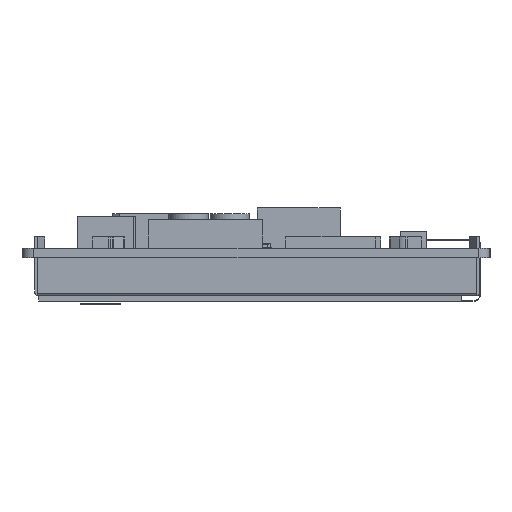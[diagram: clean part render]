
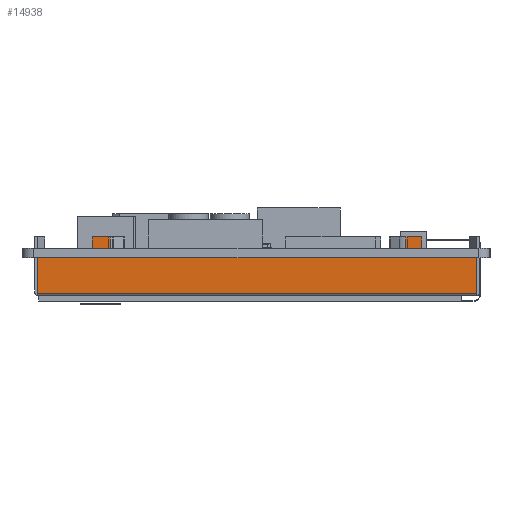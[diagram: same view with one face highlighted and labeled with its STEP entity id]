
A CAD part, left-side view. The second image highlights one B-rep face of the part: STEP entity #14938.
In plain terms, the highlighted planar face has unit normal (-1, 0, 0).
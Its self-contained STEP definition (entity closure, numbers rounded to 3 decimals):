
#6018=LINE('',#52164,#10097);
#6020=LINE('',#52169,#10099);
#6024=LINE('',#52178,#10103);
#6027=LINE('',#52184,#10106);
#6028=LINE('',#52186,#10107);
#6029=LINE('',#52188,#10108);
#6030=LINE('',#52189,#10109);
#6031=LINE('',#52191,#10110);
#6032=LINE('',#52193,#10111);
#6033=LINE('',#52195,#10112);
#6034=LINE('',#52197,#10113);
#6035=LINE('',#52198,#10114);
#6036=LINE('',#52200,#10115);
#6037=LINE('',#52202,#10116);
#6038=LINE('',#52204,#10117);
#6039=LINE('',#52206,#10118);
#10097=VECTOR('',#42795,1.);
#10099=VECTOR('',#42799,1.);
#10103=VECTOR('',#42805,1.);
#10106=VECTOR('',#42810,1.);
#10107=VECTOR('',#42811,1.);
#10108=VECTOR('',#42812,1.);
#10109=VECTOR('',#42813,1.);
#10110=VECTOR('',#42814,1.);
#10111=VECTOR('',#42815,1.);
#10112=VECTOR('',#42816,1.);
#10113=VECTOR('',#42817,1.);
#10114=VECTOR('',#42818,1.);
#10115=VECTOR('',#42819,1.);
#10116=VECTOR('',#42820,1.);
#10117=VECTOR('',#42821,1.);
#10118=VECTOR('',#42822,1.);
#11820=PLANE('',#35631);
#13357=FACE_OUTER_BOUND('',#16868,.T.);
#14938=ADVANCED_FACE('',(#13357),#11820,.F.);
#16868=EDGE_LOOP('',(#24917,#24918,#24919,#24920,#24921,#24922,#24923,#24924,
#24925,#24926,#24927,#24928,#24929,#24930,#24931,#24932));
#24917=ORIENTED_EDGE('',*,*,#33012,.F.);
#24918=ORIENTED_EDGE('',*,*,#33013,.T.);
#24919=ORIENTED_EDGE('',*,*,#33014,.T.);
#24920=ORIENTED_EDGE('',*,*,#33009,.T.);
#24921=ORIENTED_EDGE('',*,*,#33015,.T.);
#24922=ORIENTED_EDGE('',*,*,#33016,.F.);
#24923=ORIENTED_EDGE('',*,*,#33017,.T.);
#24924=ORIENTED_EDGE('',*,*,#33018,.F.);
#24925=ORIENTED_EDGE('',*,*,#33019,.F.);
#24926=ORIENTED_EDGE('',*,*,#33005,.T.);
#24927=ORIENTED_EDGE('',*,*,#33020,.T.);
#24928=ORIENTED_EDGE('',*,*,#33021,.T.);
#24929=ORIENTED_EDGE('',*,*,#33022,.F.);
#24930=ORIENTED_EDGE('',*,*,#33023,.F.);
#24931=ORIENTED_EDGE('',*,*,#33024,.F.);
#24932=ORIENTED_EDGE('',*,*,#33003,.T.);
#28696=VERTEX_POINT('',#52159);
#28698=VERTEX_POINT('',#52163);
#28699=VERTEX_POINT('',#52167);
#28701=VERTEX_POINT('',#52170);
#28703=VERTEX_POINT('',#52176);
#28705=VERTEX_POINT('',#52179);
#28707=VERTEX_POINT('',#52185);
#28708=VERTEX_POINT('',#52187);
#28709=VERTEX_POINT('',#52190);
#28710=VERTEX_POINT('',#52192);
#28711=VERTEX_POINT('',#52194);
#28712=VERTEX_POINT('',#52196);
#28713=VERTEX_POINT('',#52199);
#28714=VERTEX_POINT('',#52201);
#28715=VERTEX_POINT('',#52203);
#28716=VERTEX_POINT('',#52205);
#33003=EDGE_CURVE('',#28696,#28698,#6018,.T.);
#33005=EDGE_CURVE('',#28701,#28699,#6020,.T.);
#33009=EDGE_CURVE('',#28705,#28703,#6024,.T.);
#33012=EDGE_CURVE('',#28707,#28698,#6027,.T.);
#33013=EDGE_CURVE('',#28707,#28708,#6028,.T.);
#33014=EDGE_CURVE('',#28708,#28705,#6029,.T.);
#33015=EDGE_CURVE('',#28703,#28709,#6030,.T.);
#33016=EDGE_CURVE('',#28710,#28709,#6031,.T.);
#33017=EDGE_CURVE('',#28710,#28711,#6032,.T.);
#33018=EDGE_CURVE('',#28712,#28711,#6033,.T.);
#33019=EDGE_CURVE('',#28701,#28712,#6034,.T.);
#33020=EDGE_CURVE('',#28699,#28713,#6035,.T.);
#33021=EDGE_CURVE('',#28713,#28714,#6036,.T.);
#33022=EDGE_CURVE('',#28715,#28714,#6037,.T.);
#33023=EDGE_CURVE('',#28716,#28715,#6038,.T.);
#33024=EDGE_CURVE('',#28696,#28716,#6039,.T.);
#35631=AXIS2_PLACEMENT_3D('',#52207,#42823,#42824);
#42795=DIRECTION('',(0.,1.,0.));
#42799=DIRECTION('',(0.,1.,0.));
#42805=DIRECTION('',(0.,1.,0.));
#42810=DIRECTION('',(0.,0.,1.));
#42811=DIRECTION('',(0.,-1.,0.));
#42812=DIRECTION('',(0.,0.,1.));
#42813=DIRECTION('',(0.,0.,1.));
#42814=DIRECTION('',(0.,-1.,0.));
#42815=DIRECTION('',(0.,0.,-1.));
#42816=DIRECTION('',(0.,-1.,0.));
#42817=DIRECTION('',(0.,0.,1.));
#42818=DIRECTION('',(0.,0.,1.));
#42819=DIRECTION('',(0.,-1.,0.));
#42820=DIRECTION('',(0.,0.,-1.));
#42821=DIRECTION('',(0.,-1.,0.));
#42822=DIRECTION('',(0.,0.,1.));
#42823=DIRECTION('',(1.,0.,0.));
#42824=DIRECTION('',(0.,-1.,0.));
#52159=CARTESIAN_POINT('',(59.66,45.295,-1.6));
#52163=CARTESIAN_POINT('',(59.66,54.82,-1.6));
#52164=CARTESIAN_POINT('',(59.66,-21.2,-1.6));
#52167=CARTESIAN_POINT('',(59.66,42.295,-1.6));
#52169=CARTESIAN_POINT('',(59.66,-21.2,-1.6));
#52170=CARTESIAN_POINT('',(59.66,-8.635,-1.6));
#52176=CARTESIAN_POINT('',(59.66,-11.635,-1.6));
#52178=CARTESIAN_POINT('',(59.66,-21.2,-1.6));
#52179=CARTESIAN_POINT('',(59.66,-21.2,-1.6));
#52184=CARTESIAN_POINT('',(59.66,54.82,-8.1));
#52185=CARTESIAN_POINT('',(59.66,54.82,-7.7));
#52186=CARTESIAN_POINT('',(59.66,-21.2,-7.7));
#52187=CARTESIAN_POINT('',(59.66,-21.2,-7.7));
#52188=CARTESIAN_POINT('',(59.66,-21.2,-8.1));
#52189=CARTESIAN_POINT('',(59.66,-11.635,-1.6));
#52190=CARTESIAN_POINT('',(59.66,-11.635,2.));
#52191=CARTESIAN_POINT('',(59.66,-8.924,2.));
#52192=CARTESIAN_POINT('',(59.66,-8.924,2.));
#52193=CARTESIAN_POINT('',(59.66,-8.924,2.));
#52194=CARTESIAN_POINT('',(59.66,-8.924,0.));
#52195=CARTESIAN_POINT('',(59.66,-8.635,0.));
#52196=CARTESIAN_POINT('',(59.66,-8.635,0.));
#52197=CARTESIAN_POINT('',(59.66,-8.635,-1.6));
#52198=CARTESIAN_POINT('',(59.66,42.295,-1.6));
#52199=CARTESIAN_POINT('',(59.66,42.295,0.));
#52200=CARTESIAN_POINT('',(59.66,45.295,0.));
#52201=CARTESIAN_POINT('',(59.66,42.191,0.));
#52202=CARTESIAN_POINT('',(59.66,42.191,2.));
#52203=CARTESIAN_POINT('',(59.66,42.191,2.));
#52204=CARTESIAN_POINT('',(59.66,45.295,2.));
#52205=CARTESIAN_POINT('',(59.66,45.295,2.));
#52206=CARTESIAN_POINT('',(59.66,45.295,-1.6));
#52207=CARTESIAN_POINT('',(59.66,-21.2,-8.1));
